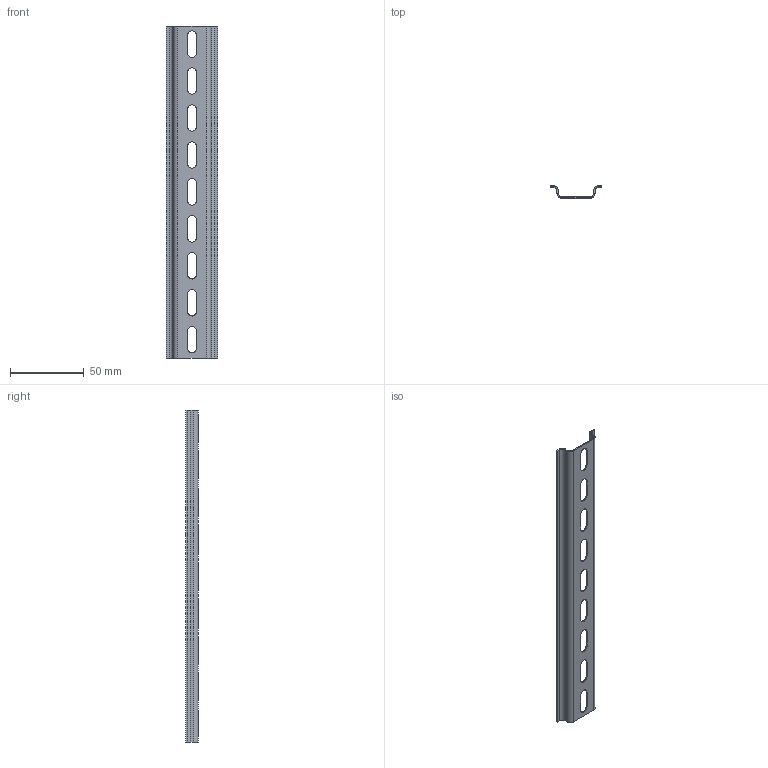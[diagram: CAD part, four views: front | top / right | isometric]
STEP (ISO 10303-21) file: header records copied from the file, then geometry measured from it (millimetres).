
FILE_DESCRIPTION (( 'STEP AP214' ), '1' );
FILE_NAME ('DIN-ðåéêà 225ìì õ 0,8 ìì.STEP', '2025-10-22T12:46:37', ( '' ), ( '' ), 'SwSTEP 2.0', 'SolidWorks 2018', '' );
FILE_SCHEMA (( 'AUTOMOTIVE_DESIGN' ));
Length unit declared in the file: millimetre
Products named in the file (1): DIN-ðåéêà 225ìì õ 0,8 ìì
Bounding box: 35.2 x 8.3 x 225 mm (x, y, z)
Volume: 7405.7 mm3; surface area: 19254.8 mm2
Topology: 1 solids, 1 shells, 83 faces, 211 edges, 130 vertices
Faces by surface type: plane 48, cylinder 35
Entity records: 2549 total; most frequent: DIRECTION 449, CARTESIAN_POINT 425, ORIENTED_EDGE 422, EDGE_CURVE 211, AXIS2_PLACEMENT_3D 154, LINE 141, VECTOR 141, VERTEX_POINT 130
